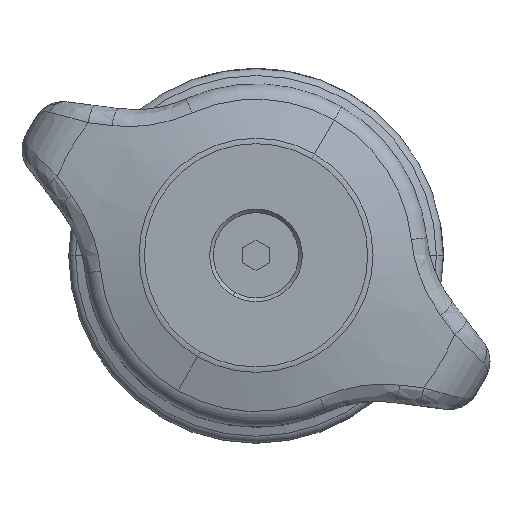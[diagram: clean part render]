
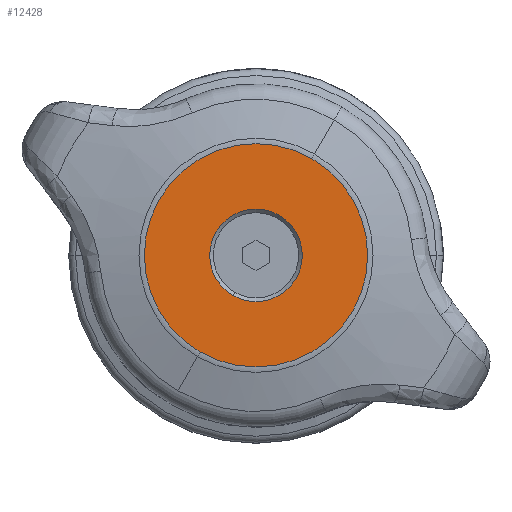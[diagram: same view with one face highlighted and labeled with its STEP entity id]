
A CAD part, top view. The second image highlights one B-rep face of the part: STEP entity #12428.
In plain terms, the highlighted planar face has unit normal (0, 0, 1) as drawn and (0, 0, -1) by its records, which use the part's own axes.
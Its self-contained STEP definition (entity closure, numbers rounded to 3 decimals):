
#22 = EDGE_CURVE ( 'NONE', #4657, #8047, #246, .T. ) ;
#246 = CIRCLE ( 'NONE', #8296, 10.737 ) ;
#532 = CIRCLE ( 'NONE', #7758, 4.45 ) ;
#815 = DIRECTION ( 'NONE',  ( 0.866, 0.5, 0. ) ) ;
#1145 = AXIS2_PLACEMENT_3D ( 'NONE', #9666, #12698, #815 ) ;
#1674 = CARTESIAN_POINT ( 'NONE',  ( 0., 0., -43.83 ) ) ;
#1722 = CARTESIAN_POINT ( 'NONE',  ( 0., 0., -43.83 ) ) ;
#1748 = VERTEX_POINT ( 'NONE', #1775 ) ;
#1775 = CARTESIAN_POINT ( 'NONE',  ( -3.854, -2.225, -43.83 ) ) ;
#1874 = CARTESIAN_POINT ( 'NONE',  ( 9.298, 5.368, -43.83 ) ) ;
#2008 = AXIS2_PLACEMENT_3D ( 'NONE', #6923, #4780, #7701 ) ;
#2586 = FACE_BOUND ( 'NONE', #10000, .T. ) ;
#3752 = CARTESIAN_POINT ( 'NONE',  ( 0., 0., -43.83 ) ) ;
#3830 = ORIENTED_EDGE ( 'NONE', *, *, #9136, .T. ) ;
#3908 = CARTESIAN_POINT ( 'NONE',  ( -9.298, -5.368, -43.83 ) ) ;
#4475 = CIRCLE ( 'NONE', #2008, 10.737 ) ;
#4657 = VERTEX_POINT ( 'NONE', #1874 ) ;
#4693 = DIRECTION ( 'NONE',  ( 0.866, 0.5, 0. ) ) ;
#4780 = DIRECTION ( 'NONE',  ( 0., 0., -1. ) ) ;
#4856 = VERTEX_POINT ( 'NONE', #5483 ) ;
#5483 = CARTESIAN_POINT ( 'NONE',  ( 3.854, 2.225, -43.83 ) ) ;
#6311 = CIRCLE ( 'NONE', #1145, 4.45 ) ;
#6865 = EDGE_LOOP ( 'NONE', ( #8670, #8556 ) ) ;
#6923 = CARTESIAN_POINT ( 'NONE',  ( 0., 0., -43.83 ) ) ;
#7078 = ORIENTED_EDGE ( 'NONE', *, *, #8053, .T. ) ;
#7562 = PLANE ( 'NONE',  #9869 ) ;
#7701 = DIRECTION ( 'NONE',  ( 0.866, 0.5, 0. ) ) ;
#7758 = AXIS2_PLACEMENT_3D ( 'NONE', #1722, #8394, #4693 ) ;
#8047 = VERTEX_POINT ( 'NONE', #3908 ) ;
#8053 = EDGE_CURVE ( 'NONE', #4856, #1748, #6311, .T. ) ;
#8296 = AXIS2_PLACEMENT_3D ( 'NONE', #3752, #10665, #12669 ) ;
#8394 = DIRECTION ( 'NONE',  ( 0., 0., 1. ) ) ;
#8556 = ORIENTED_EDGE ( 'NONE', *, *, #10927, .T. ) ;
#8670 = ORIENTED_EDGE ( 'NONE', *, *, #22, .T. ) ;
#9136 = EDGE_CURVE ( 'NONE', #1748, #4856, #532, .T. ) ;
#9556 = DIRECTION ( 'NONE',  ( 0.866, 0.5, 0. ) ) ;
#9666 = CARTESIAN_POINT ( 'NONE',  ( 0., 0., -43.83 ) ) ;
#9869 = AXIS2_PLACEMENT_3D ( 'NONE', #1674, #12404, #9556 ) ;
#10000 = EDGE_LOOP ( 'NONE', ( #3830, #7078 ) ) ;
#10585 = FACE_OUTER_BOUND ( 'NONE', #6865, .T. ) ;
#10665 = DIRECTION ( 'NONE',  ( 0., 0., -1. ) ) ;
#10927 = EDGE_CURVE ( 'NONE', #8047, #4657, #4475, .T. ) ;
#12404 = DIRECTION ( 'NONE',  ( 0., 0., 1. ) ) ;
#12428 = ADVANCED_FACE ( 'NONE', ( #10585, #2586 ), #7562, .F. ) ;
#12669 = DIRECTION ( 'NONE',  ( 0.866, 0.5, 0. ) ) ;
#12698 = DIRECTION ( 'NONE',  ( 0., 0., 1. ) ) ;
